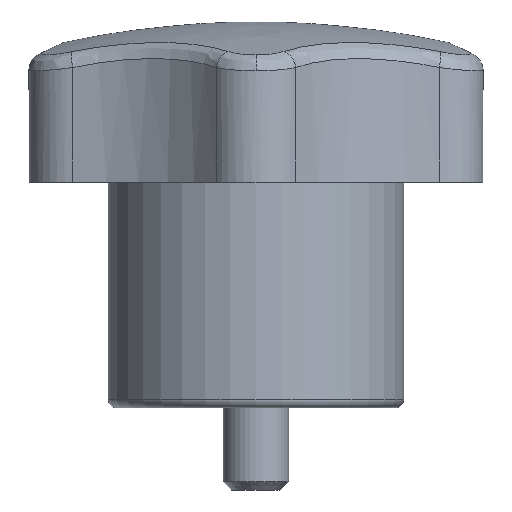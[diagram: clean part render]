
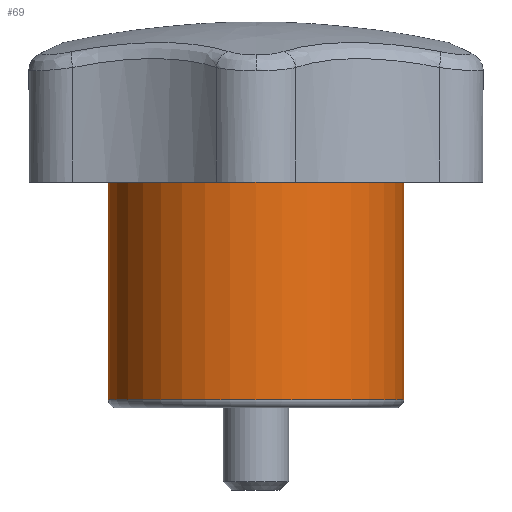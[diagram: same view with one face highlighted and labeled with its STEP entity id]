
A CAD part, left-side view. The second image highlights one B-rep face of the part: STEP entity #69.
In plain terms, the highlighted cylindrical face has radius 18 mm (diameter 36 mm), a full revolution.
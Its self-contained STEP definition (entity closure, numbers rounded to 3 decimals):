
#37=CARTESIAN_POINT('',(0.,0.,33.));
#38=DIRECTION('',(-1.,0.,0.));
#39=DIRECTION('',(0.,0.,-1.));
#40=AXIS2_PLACEMENT_3D('',#37,#39,#38);
#41=CYLINDRICAL_SURFACE('',#40,18.);
#42=CARTESIAN_POINT('',(-18.,0.,1.));
#43=VERTEX_POINT('',#42);
#44=CARTESIAN_POINT('',(0.,0.,1.));
#45=DIRECTION('',(-1.,0.,0.));
#46=DIRECTION('',(0.,0.,1.));
#47=AXIS2_PLACEMENT_3D('',#44,#46,#45);
#48=CIRCLE('',#47,18.);
#49=EDGE_CURVE('',#43,#43,#48,.T.);
#50=ORIENTED_EDGE('E84',*,*,#49,.T.);
#51=CARTESIAN_POINT('',(-18.,0.,33.));
#52=VERTEX_POINT('',#51);
#53=CARTESIAN_POINT('',(-18.,0.,1.));
#54=DIRECTION('',(0.,0.,1.));
#55=VECTOR('',#54,32.);
#56=LINE('',#53,#55);
#57=EDGE_CURVE('',#43,#52,#56,.T.);
#58=ORIENTED_EDGE('E55',*,*,#57,.T.);
#59=CARTESIAN_POINT('',(0.,0.,33.));
#60=DIRECTION('',(-1.,0.,0.));
#61=DIRECTION('',(0.,0.,1.));
#62=AXIS2_PLACEMENT_3D('',#59,#61,#60);
#63=CIRCLE('',#62,18.);
#64=EDGE_CURVE('',#52,#52,#63,.T.);
#65=ORIENTED_EDGE('E132',*,*,#64,.F.);
#66=ORIENTED_EDGE('E132',*,*,#57,.F.);
#67=EDGE_LOOP('',(#50,#58,#65,#66));
#68=FACE_OUTER_BOUND('',#67,.T.);
#69=ADVANCED_FACE('F50',(#68),#41,.T.);
